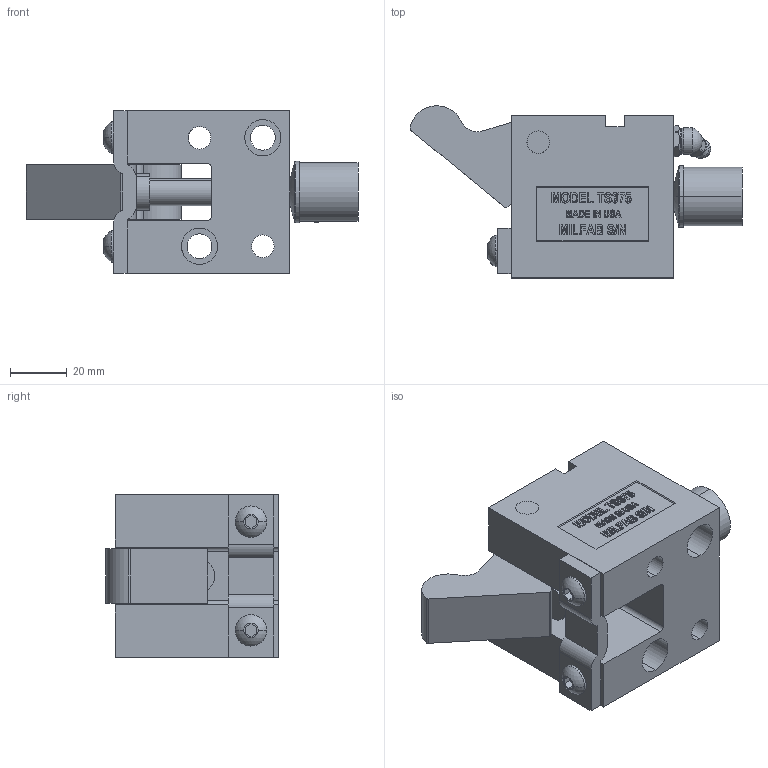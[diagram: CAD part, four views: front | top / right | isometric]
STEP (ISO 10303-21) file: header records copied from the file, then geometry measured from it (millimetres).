
FILE_DESCRIPTION (( 'STEP AP214' ), '1' );
FILE_NAME ('TS37545-O.STEP', '2014-01-05T21:09:08', ( 'user' ), ( '' ), 'SwSTEP 2.0', 'SolidWorks 2009', '' );
FILE_SCHEMA (( 'AUTOMOTIVE_DESIGN' ));
Length unit declared in the file: inch
Products named in the file (11): TS375-BODY; I-375-POINT; S375-PUNCH; 375 PIVOT PIN; TS37545-O; 375-WASHER; 1-4 SCREW; 375 STRIPPER OPEN; GREASE ZERK; 375-OFFSET TRIGGER; 375-I-STRAP
Assembly tree (11 placements, depth 2):
  TS37545-O
    375-I-STRAP
    375 STRIPPER OPEN
    S375-PUNCH
    1-4 SCREW  x2
    375-OFFSET TRIGGER
    375-WASHER
    TS375-BODY
    GREASE ZERK
    375 PIVOT PIN
    I-375-POINT
Bounding box: 116.56 x 60.43 x 57.15 mm (x, y, z)
Volume: 166997.2 mm3; surface area: 47319.1 mm2
Topology: 11 solids, 11 shells, 580 faces, 1502 edges, 986 vertices
Faces by surface type: plane 335, bspline 99, cylinder 92, cone 30, torus 20, sphere 4
Entity records: 23185 total; most frequent: CARTESIAN_POINT 9550, ORIENTED_EDGE 2916, DIRECTION 2344, EDGE_CURVE 1458, VERTEX_POINT 960, VECTOR 958, LINE 958, AXIS2_PLACEMENT_3D 693
